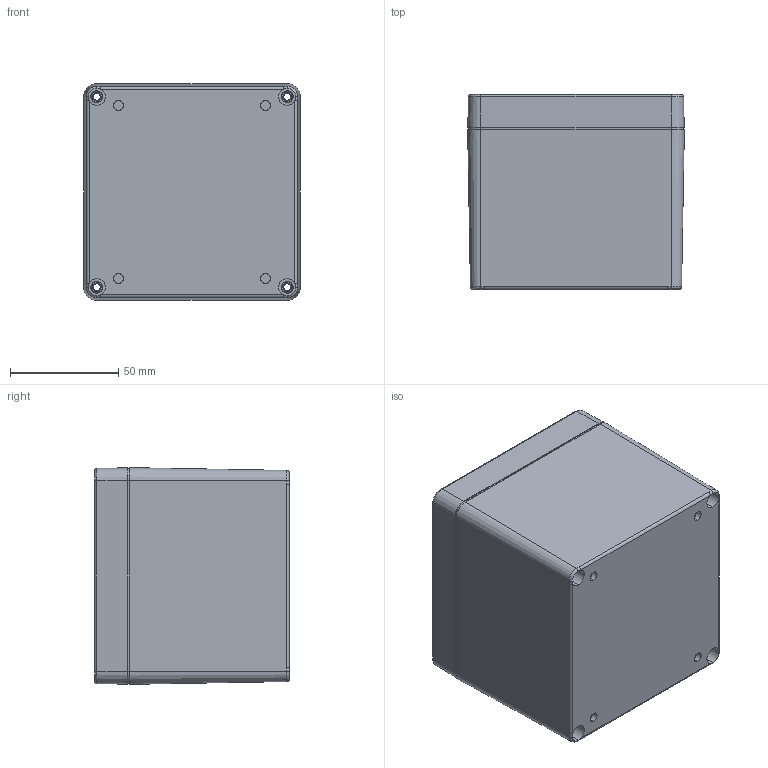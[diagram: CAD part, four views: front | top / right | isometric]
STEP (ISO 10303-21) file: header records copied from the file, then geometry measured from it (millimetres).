
FILE_DESCRIPTION (( 'STEP AP203' ), '1' );
FILE_NAME ('PE220.STEP', '2019-11-26T10:58:20', ( '' ), ( '' ), 'SwSTEP 2.0', 'SolidWorks 2020', '' );
FILE_SCHEMA (( 'CONFIG_CONTROL_DESIGN' ));
Length unit declared in the file: millimetre
Products named in the file (4): PE220; PE220 
Assembly tree (3 placements, depth 2):
  PE220
    PE220 
    PE220
    PE220
Bounding box: 100.17 x 90 x 100.17 mm (x, y, z)
Volume: 196932 mm3; surface area: 155160.4 mm2
Topology: 11 solids, 11 shells, 1323 faces, 3518 edges, 2264 vertices
Faces by surface type: bspline 452, cylinder 372, plane 293, cone 202, torus 4
Entity records: 46406 total; most frequent: CARTESIAN_POINT 15743, ORIENTED_EDGE 6996, DIRECTION 5440, EDGE_CURVE 3498, VERTEX_POINT 2264, AXIS2_PLACEMENT_3D 1989, VECTOR 1462, LINE 1462
